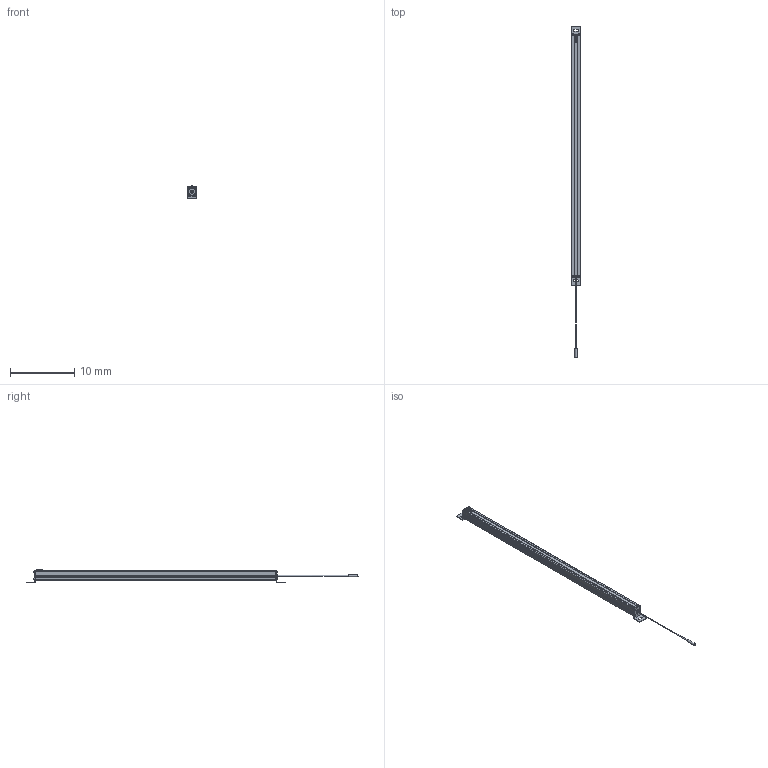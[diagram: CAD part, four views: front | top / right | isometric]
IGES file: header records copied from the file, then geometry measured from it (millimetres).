
Start section:  Autodesk DirectConnect version 7.0.27.0 ---- IGES version 5.3
Global section: file name: C:\ACADFILES\SS_PYLONS\CUSTOMER_FILES\SS-36-PYLON_3D_L.iges; native system: Autodesk DirectConnect 7.0.27.0; preprocessor: 7.0.27.0; author: ENGINEERMAIN; organization: Unknown; date: 20150810.125103; units: millimetre
Bounding box: 1.46 x 51.52 x 2.11 mm (x, y, z)
Surface area: 568.8 mm2 (no closed solid volume)
Topology: 0 solids, 0 shells, 475 faces, 2714 edges, 2843 vertices
Faces by surface type: bspline 475
